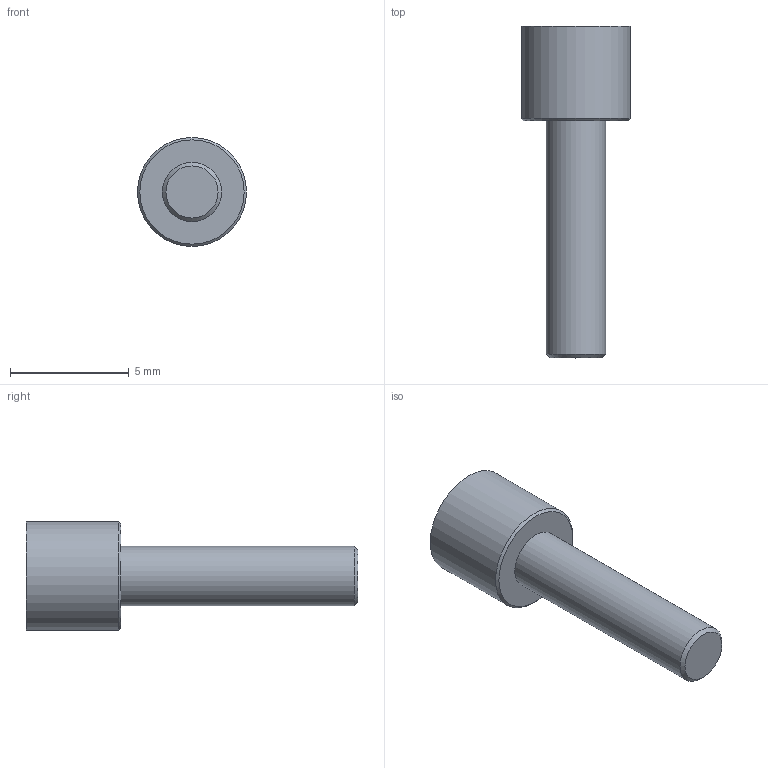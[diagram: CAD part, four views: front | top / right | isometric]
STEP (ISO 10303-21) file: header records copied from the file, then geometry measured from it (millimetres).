
FILE_DESCRIPTION (( 'STEP AP214' ), '1' );
FILE_NAME ('SE-8.STEP', '2018-10-09T18:06:31', ( '' ), ( '' ), 'SwSTEP 2.0', 'SolidWorks 2017', '' );
FILE_SCHEMA (( 'AUTOMOTIVE_DESIGN' ));
Length unit declared in the file: millimetre
Products named in the file (1): SE-8
Bounding box: 4.6 x 14 x 4.6 mm (x, y, z)
Volume: 114.4 mm3; surface area: 171.2 mm2
Topology: 1 solids, 1 shells, 20 faces, 48 edges, 32 vertices
Faces by surface type: plane 11, cylinder 7, cone 2
Full cylindrical faces by diameter (mm): 2.5 x1, 4.6 x1
Entity records: 574 total; most frequent: CARTESIAN_POINT 123, ORIENTED_EDGE 84, DIRECTION 80, EDGE_CURVE 42, VERTEX_POINT 30, AXIS2_PLACEMENT_3D 27, LINE 26, VECTOR 26
